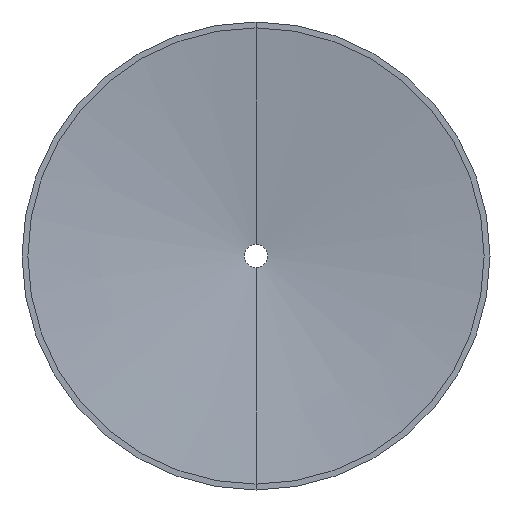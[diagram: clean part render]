
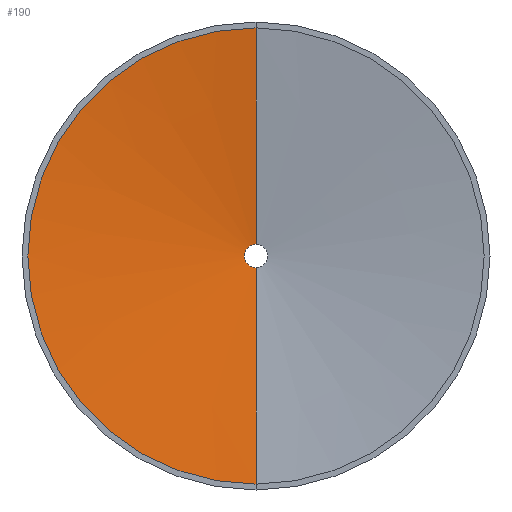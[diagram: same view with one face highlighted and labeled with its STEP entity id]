
A CAD part, front view. The second image highlights one B-rep face of the part: STEP entity #190.
In plain terms, the highlighted conical face has half-angle 83 degrees and reference radius 1 mm.
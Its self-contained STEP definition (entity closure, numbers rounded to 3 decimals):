
#9 = VERTEX_POINT ( 'NONE', #15 ) ;
#15 = CARTESIAN_POINT ( 'NONE',  ( 0., 2.272, -1. ) ) ;
#16 = ORIENTED_EDGE ( 'NONE', *, *, #287, .T. ) ;
#17 = EDGE_CURVE ( 'NONE', #204, #9, #498, .T. ) ;
#37 = CARTESIAN_POINT ( 'NONE',  ( 0., 2.272, 1. ) ) ;
#60 = VERTEX_POINT ( 'NONE', #423 ) ;
#66 = CARTESIAN_POINT ( 'NONE',  ( 0., 0., 0. ) ) ;
#79 = ORIENTED_EDGE ( 'NONE', *, *, #17, .F. ) ;
#82 = DIRECTION ( 'NONE',  ( 0., 0., -1. ) ) ;
#87 = AXIS2_PLACEMENT_3D ( 'NONE', #521, #482, #82 ) ;
#122 = AXIS2_PLACEMENT_3D ( 'NONE', #337, #297, #136 ) ;
#136 = DIRECTION ( 'NONE',  ( 0., 0., -1. ) ) ;
#165 = LINE ( 'NONE', #238, #326 ) ;
#190 = ADVANCED_FACE ( 'NONE', ( #483 ), #217, .F. ) ;
#204 = VERTEX_POINT ( 'NONE', #476 ) ;
#217 = CONICAL_SURFACE ( 'NONE', #87, 1., 1.449 ) ;
#225 = DIRECTION ( 'NONE',  ( 0., 0., -1. ) ) ;
#234 = VERTEX_POINT ( 'NONE', #403 ) ;
#235 = DIRECTION ( 'NONE',  ( 0., -0.122, 0.993 ) ) ;
#238 = CARTESIAN_POINT ( 'NONE',  ( 0., 2.272, -1. ) ) ;
#261 = AXIS2_PLACEMENT_3D ( 'NONE', #66, #265, #225 ) ;
#265 = DIRECTION ( 'NONE',  ( 0., 1., 0. ) ) ;
#279 = EDGE_CURVE ( 'NONE', #234, #60, #366, .T. ) ;
#287 = EDGE_CURVE ( 'NONE', #204, #60, #507, .T. ) ;
#297 = DIRECTION ( 'NONE',  ( 0., -1., 0. ) ) ;
#311 = DIRECTION ( 'NONE',  ( 0., -0.122, -0.993 ) ) ;
#326 = VECTOR ( 'NONE', #311, 1000. ) ;
#337 = CARTESIAN_POINT ( 'NONE',  ( 0., 2.272, 0. ) ) ;
#362 = ORIENTED_EDGE ( 'NONE', *, *, #279, .F. ) ;
#366 = CIRCLE ( 'NONE', #261, 19.5 ) ;
#367 = ORIENTED_EDGE ( 'NONE', *, *, #368, .F. ) ;
#368 = EDGE_CURVE ( 'NONE', #9, #234, #165, .T. ) ;
#403 = CARTESIAN_POINT ( 'NONE',  ( 0., 0., -19.5 ) ) ;
#410 = EDGE_LOOP ( 'NONE', ( #79, #16, #362, #367 ) ) ;
#423 = CARTESIAN_POINT ( 'NONE',  ( 0., 0., 19.5 ) ) ;
#448 = VECTOR ( 'NONE', #235, 1000. ) ;
#476 = CARTESIAN_POINT ( 'NONE',  ( 0., 2.272, 1. ) ) ;
#482 = DIRECTION ( 'NONE',  ( 0., -1., 0. ) ) ;
#483 = FACE_OUTER_BOUND ( 'NONE', #410, .T. ) ;
#498 = CIRCLE ( 'NONE', #122, 1. ) ;
#507 = LINE ( 'NONE', #37, #448 ) ;
#521 = CARTESIAN_POINT ( 'NONE',  ( 0., 2.272, 0. ) ) ;
